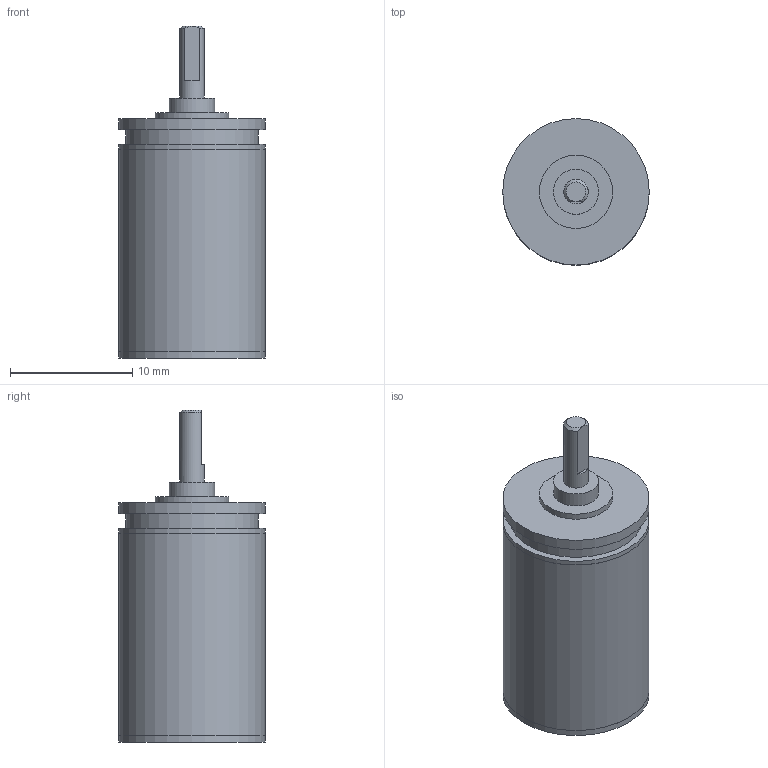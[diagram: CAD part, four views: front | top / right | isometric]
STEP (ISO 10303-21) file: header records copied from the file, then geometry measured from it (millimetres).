
FILE_DESCRIPTION(/* description */ (''),/* implementation_level */ '2;1');
FILE_NAME(/* name */ '12-3_5.stp',/* time_stamp */ '2016-08-24T10:06:58+02:00',/* author */ ('DR. FRITZ FAULHABER GmbH & Co. KG'),/* organization */ ('DR. FRITZ FAULHABER GmbH & Co. KG'),/* preprocessor_version */ 'ST-DEVELOPER v16',/* originating_system */ 'SIEMENS PLM Software NX 10.0',/* authorisation */ '');
FILE_SCHEMA (('AUTOMOTIVE_DESIGN { 1 0 10303 214 3 1 1 1 }'));
Length unit declared in the file: millimetre
Products named in the file (1): H00000568_A
Bounding box: 12 x 12 x 27.2 mm (x, y, z)
Volume: 2166.1 mm3; surface area: 1127.3 mm2
Topology: 1 solids, 1 shells, 32 faces, 52 edges, 34 vertices
Faces by surface type: plane 16, cylinder 14, cone 2
Full cylindrical faces by diameter (mm): 2 x1, 2.48 x1, 2.6 x1, 3.7 x1, 5 x1, 6 x2, 10.88 x1, 11.99 x2, 12 x4
Entity records: 692 total; most frequent: DIRECTION 129, CARTESIAN_POINT 115, ORIENTED_EDGE 70, AXIS2_PLACEMENT_3D 63, EDGE_LOOP 59, FACE_BOUND 54, EDGE_CURVE 35, ADVANCED_FACE 32
